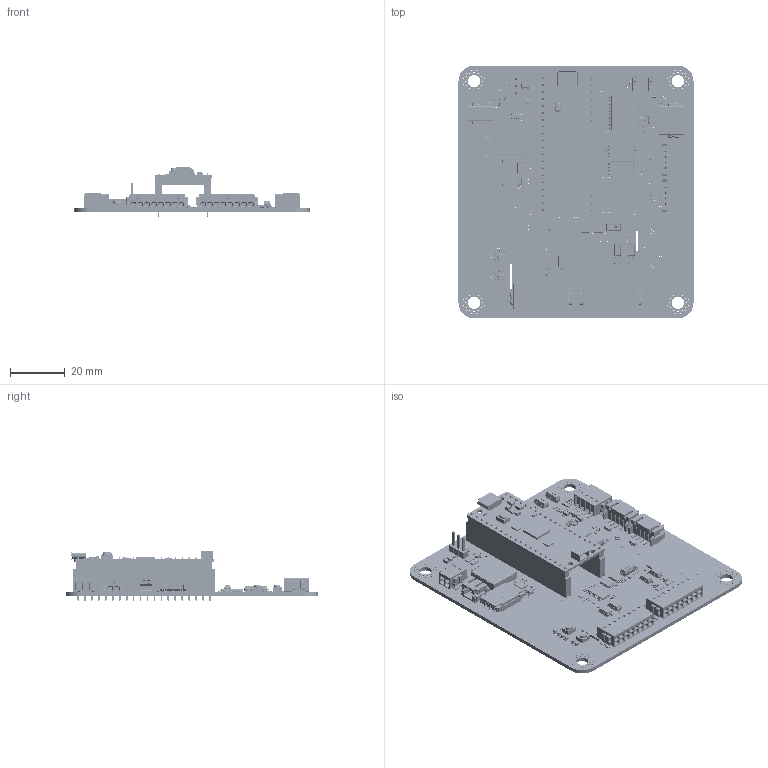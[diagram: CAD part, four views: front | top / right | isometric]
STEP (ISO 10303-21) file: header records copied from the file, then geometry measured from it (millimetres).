
FILE_DESCRIPTION(('KiCad electronic assembly'),'2;1');
FILE_NAME('pcb.step','2025-07-31T20:18:51',('Pcbnew'),('Kicad'), 'Open CASCADE STEP processor 7.8','KiCad to STEP converter','Unknown' );
FILE_SCHEMA(('AUTOMOTIVE_DESIGN { 1 0 10303 214 1 1 1 1 }'));
Length unit declared in the file: millimetre
Products named in the file (46): pcb 1; C_0402_1005Metric; PhoenixContact_PTSM_01x04_1702474; LR_0_5_2_5_SMD_anker; AT_PTSM_0_5_2_5_H_SMD; DIP-40_W17.78mm_Socket; RaspberryPi_Pico_H_Socketed; R_1206_3216Metric; SOT-23; R_0402_1005Metric; LED_0603_1608Metric; C_0603_1608Metric; SW_DIP_SPSTx01_Slide_Copal_CHS-01A_W5.08mm_P1.27mm_JPin; D_SOD-523; L_0805_2012Metric; D_SOD-323; TSSOP-8_4.4x3mm_P0.65mm; C_0805_2012Metric; SOIC-8_7.5x5.85mm_P1.27mm; MSOP-16_3x4.039mm_P0.5mm; R_0603_1608Metric; PhoenixContact_PTSM_01x08_1771088; LR_0_5_2_5_SMD_anker.1; JST_S4B-PH-SM4-TB; S4B-PH-SM4-TB part; Buzzer_Murata_PKLCS1212E-R1; T_WE_74941302; base; case; SOT-363_SC-70-6; SOP-4_4.4x2.6mm_P1.27mm; L_0603_1608Metric; Button_Switch_SMD_WE_434133025816; Frame; Cover; Stem; Terminal; PinHeader_1x03_P2.54mm_Vertical_SMD_Pin1Right; TSSOP-24_4.4x7.8mm_P0.65mm; SOIC-20W_7.5x12.8mm_P1.27mm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
Assembly tree (161 placements, depth 3):
  pcb 1
    C_0402_1005Metric  x21
    PhoenixContact_PTSM_01x04_1702474
      LR_0_5_2_5_SMD_anker  x2
      AT_PTSM_0_5_2_5_H_SMD
    DIP-40_W17.78mm_Socket
    RaspberryPi_Pico_H_Socketed
    R_1206_3216Metric  x6
    SOT-23  x6
    R_0402_1005Metric  x46
    LED_0603_1608Metric  x7
    C_0603_1608Metric  x3
    SW_DIP_SPSTx01_Slide_Copal_CHS-01A_W5.08mm_P1.27mm_JPin  x3
    D_SOD-523  x4
    L_0805_2012Metric
    D_SOD-323  x3
    TSSOP-8_4.4x3mm_P0.65mm  x2
    C_0805_2012Metric  x4
    SOIC-8_7.5x5.85mm_P1.27mm  x2
    MSOP-16_3x4.039mm_P0.5mm
    R_0603_1608Metric  x6
    PhoenixContact_PTSM_01x08_1771088  x2
      LR_0_5_2_5_SMD_anker.1
      AT_PTSM_0_5_2_5_H_SMD
    JST_S4B-PH-SM4-TB  x2
      S4B-PH-SM4-TB part
    Buzzer_Murata_PKLCS1212E-R1
    T_WE_74941302
      base
      case
    SOT-363_SC-70-6  x2
    SOP-4_4.4x2.6mm_P1.27mm  x4
    L_0603_1608Metric  x5
    Button_Switch_SMD_WE_434133025816  x2
      Frame
      Cover
      Stem
      Terminal
    PinHeader_1x03_P2.54mm_Vertical_SMD_Pin1Right
    TSSOP-24_4.4x7.8mm_P0.65mm
    SOIC-20W_7.5x12.8mm_P1.27mm
    JST_S2B-PH-SM4-TB
    PhoenixContact_PTSM_01x02_1702473
      ptsm_0.5-2-2.5_smd_h
    Fuse_1206_3216Metric
    bmm_PCB
Bounding box: 86 x 92.5 x 18.07 mm (x, y, z)
Volume: 20103.6 mm3; surface area: 34812.3 mm2
Topology: 199 solids, 199 shells, 12169 faces, 31623 edges, 20375 vertices
Faces by surface type: plane 8543, cylinder 2876, bspline 497, cone 148, extrusion 51, torus 42, sphere 8, revolution 4
Full cylindrical faces by diameter (mm): 0.2 x201, 0.25 x5, 0.4 x96, 0.75 x2, 1 x81, 1.85 x2, 2.1 x4, 2.2 x2, 4.5 x4
Entity records: 263346 total; most frequent: CARTESIAN_POINT 42961, ORIENTED_EDGE 36274, DIRECTION 34427, EDGE_CURVE 18139, VECTOR 14187, LINE 14153, VERTEX_POINT 11688, AXIS2_PLACEMENT_3D 10118
